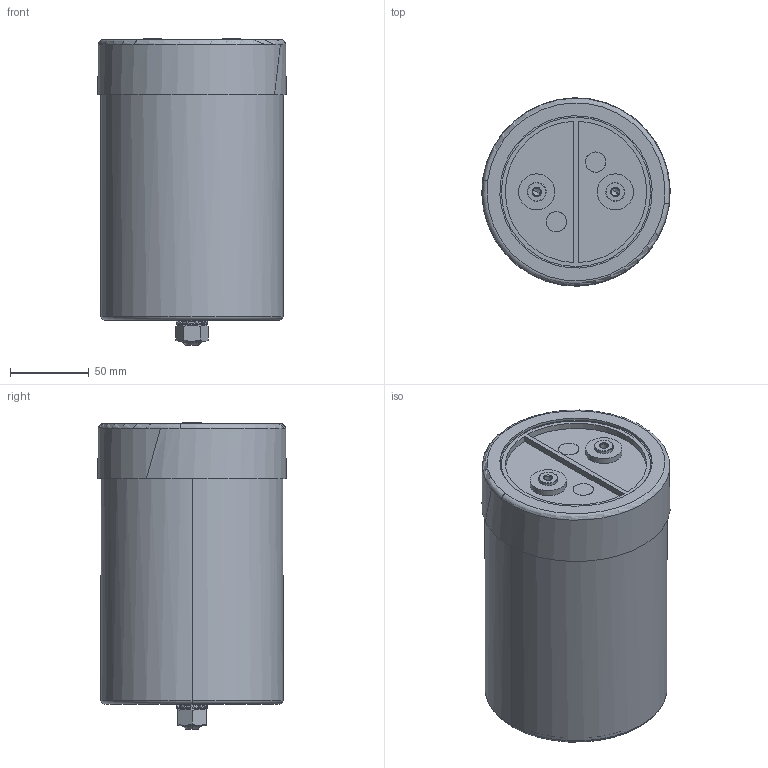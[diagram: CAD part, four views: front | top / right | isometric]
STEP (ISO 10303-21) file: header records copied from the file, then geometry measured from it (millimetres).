
FILE_DESCRIPTION (( 'STEP AP203' ), '1' );
FILE_NAME ('B25620Cx_116X177_179.STEP', '2021-07-01T05:20:42', ( '' ), ( '' ), 'SwSTEP 2.0', 'SolidWorks 2017', '' );
FILE_SCHEMA (( 'CONFIG_CONTROL_DESIGN' ));
Length unit declared in the file: millimetre
Products named in the file (1): B25620Cx_116X177_179
Bounding box: 119.98 x 119.98 x 195 mm (x, y, z)
Volume: 151896.2 mm3; surface area: 199130.3 mm2
Topology: 2 solids, 17 shells, 306 faces, 678 edges, 434 vertices
Faces by surface type: plane 120, cylinder 92, bspline 50, cone 24, torus 20
Entity records: 9237 total; most frequent: CARTESIAN_POINT 2511, DIRECTION 1358, ORIENTED_EDGE 1348, EDGE_CURVE 674, AXIS2_PLACEMENT_3D 523, VERTEX_POINT 434, EDGE_LOOP 344, VECTOR 312
